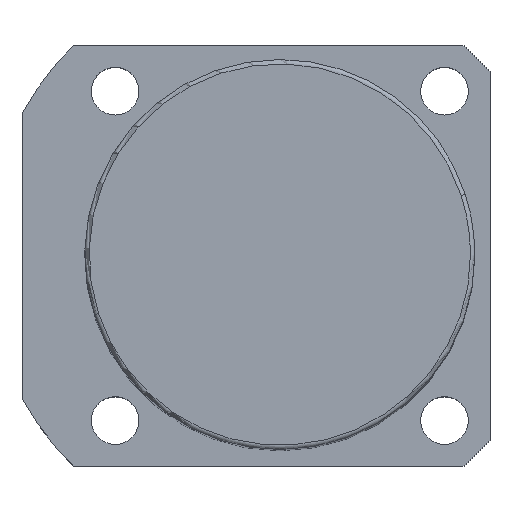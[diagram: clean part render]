
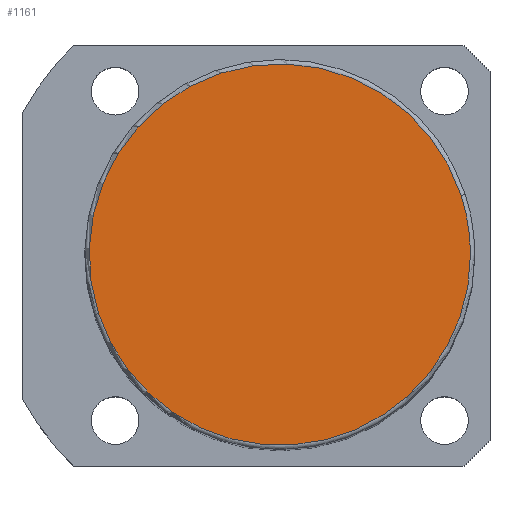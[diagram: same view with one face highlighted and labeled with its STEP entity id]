
A CAD part, top view. The second image highlights one B-rep face of the part: STEP entity #1161.
In plain terms, the highlighted planar face has unit normal (0, 0, 1).
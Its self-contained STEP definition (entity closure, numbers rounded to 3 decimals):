
#1094=CARTESIAN_POINT('',(41.846,13.597,191.5));
#1095=VERTEX_POINT('',#1094);
#1113=CARTESIAN_POINT('',(-41.846,-13.597,191.5));
#1114=VERTEX_POINT('',#1113);
#1122=CARTESIAN_POINT('',(0.0,0.0,191.5));
#1123=DIRECTION('',(0.0,0.0,1.0));
#1124=DIRECTION('',(1.0,0.0,0.0));
#1125=AXIS2_PLACEMENT_3D('',#1122,#1123,#1124);
#1126=CIRCLE('',#1125,44.0);
#1127=EDGE_CURVE('no 1711',#1095,#1114,#1126,.T.);
#1137=CARTESIAN_POINT('',(44.0,0.0,191.5));
#1138=VERTEX_POINT('',#1137);
#1139=CARTESIAN_POINT('',(0.0,0.0,191.5));
#1140=DIRECTION('',(0.0,0.0,1.0));
#1141=DIRECTION('',(1.0,0.0,0.0));
#1142=AXIS2_PLACEMENT_3D('',#1139,#1140,#1141);
#1143=CIRCLE('',#1142,44.0);
#1144=EDGE_CURVE('no 1720',#1138,#1095,#1143,.T.);
#1145=ORIENTED_EDGE('',*,*,#1144,.T.);
#1146=ORIENTED_EDGE('',*,*,#1127,.T.);
#1147=CARTESIAN_POINT('',(0.0,0.0,191.5));
#1148=DIRECTION('',(0.0,0.0,1.0));
#1149=DIRECTION('',(1.0,0.0,0.0));
#1150=AXIS2_PLACEMENT_3D('',#1147,#1148,#1149);
#1151=CIRCLE('',#1150,44.0);
#1152=EDGE_CURVE('no 1726',#1114,#1138,#1151,.T.);
#1153=ORIENTED_EDGE('',*,*,#1152,.T.);
#1154=EDGE_LOOP('',(#1145,#1146,#1153));
#1155=FACE_OUTER_BOUND('',#1154,.T.);
#1156=CARTESIAN_POINT('',(0.0,0.0,191.5));
#1157=DIRECTION('',(0.0,0.0,1.0));
#1158=DIRECTION('',(1.0,0.0,0.0));
#1159=AXIS2_PLACEMENT_3D('',#1156,#1157,#1158);
#1160=PLANE('',#1159);
#1161=ADVANCED_FACE('no 1713',(#1155),#1160,.T.);
